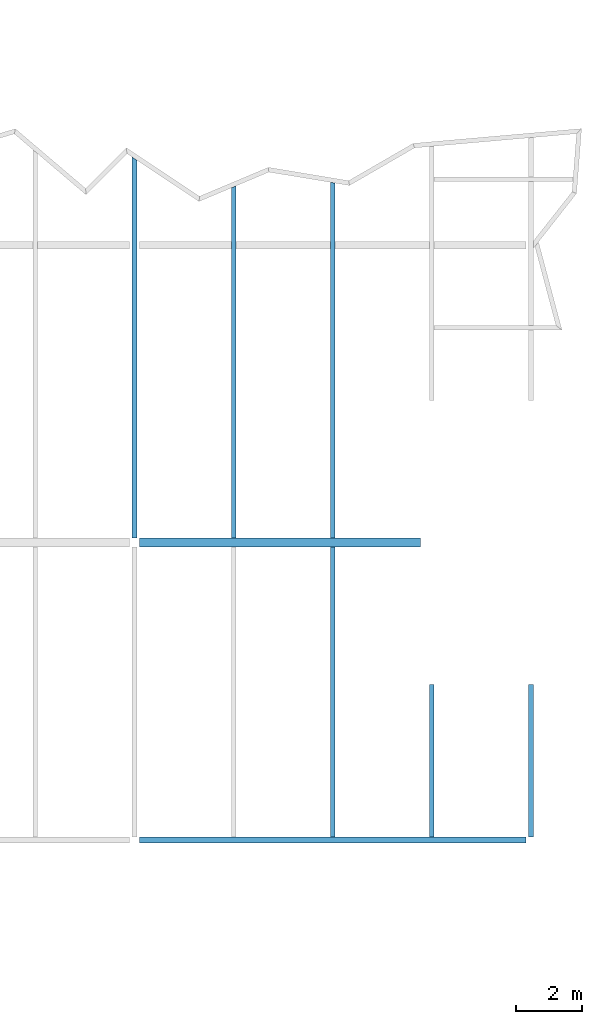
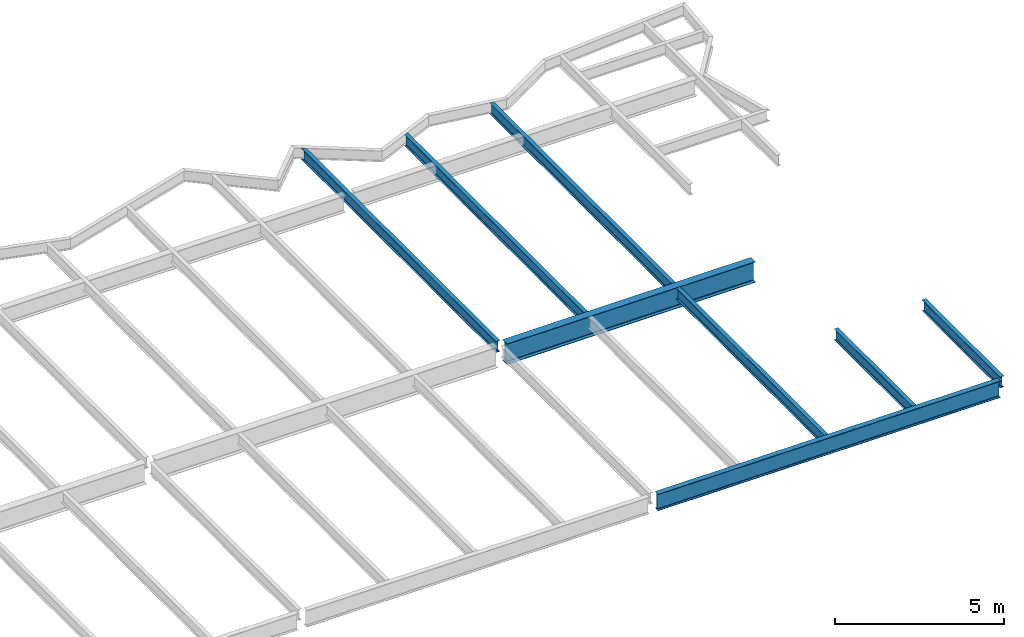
# One storey, part 18 of 21: 8 beams.
"""IFC2X3 building model written with IfcOpenShell, lengths in millimetres."""

import ifcopenshell
import ifcopenshell.guid

model = None  # the IFC model being written
_history = None  # IfcOwnerHistory: only IFC2X3 demands one
_inside = {}  # id of a spatial element -> (the spatial element, [elements in it])
_under = {}  # id of a project, library or spatial element -> (it, [spatial elements below it])
_declared = {}  # id of a project -> (the project, [libraries it declares])
_typed = {}  # id of a type object -> (the type object, [elements of that type])
_made_of = {}  # id of a material, layer set ... -> (it, [elements and type objects made of it])


def new_model(schema):
    """Start an empty IFC model of exactly this schema.

    Asked for "IFC4X3", IfcOpenShell would pick the latest addendum, in which some entities
    have other attributes; the version numbers below select the first issue.
    IFC2X3 requires an IfcOwnerHistory on every rooted entity: one is made here for all.
    """
    global model, _history
    if schema == "IFC4X3":
        model = ifcopenshell.file(schema_version=(4, 3, 0, 0))
    else:
        model = ifcopenshell.file(schema=schema)
    _inside.clear()
    _under.clear()
    _declared.clear()
    _typed.clear()
    _made_of.clear()
    _history = None
    if model.schema == "IFC2X3":
        org = make("IfcOrganization", Name="unknown")
        user = make(
            "IfcPersonAndOrganization",
            ThePerson=make("IfcPerson", FamilyName="unknown"),
            TheOrganization=org,
        )
        app = make(
            "IfcApplication",
            ApplicationDeveloper=org,
            Version="unknown",
            ApplicationFullName="unknown",
            ApplicationIdentifier="unknown",
        )
        _history = make(
            "IfcOwnerHistory",
            OwningUser=user,
            OwningApplication=app,
            ChangeAction="ADDED",
            CreationDate=0,
        )
    return model


def make(cls, **values):
    """One entity of the class cls with the attributes given. An attribute that is None is left unset."""
    return model.create_entity(
        cls, **{name: value for name, value in values.items() if value is not None}
    )


def rooted(cls, **values):
    """An entity with a GlobalId (a new one), such as an element, a storey or a relation."""
    return make(cls, GlobalId=ifcopenshell.guid.new(), OwnerHistory=_history, **values)


def si_unit(unit_type, name, prefix=None):
    """IfcSIUnit, for example si_unit("LENGTHUNIT", "METRE", prefix="MILLI")."""
    return make("IfcSIUnit", UnitType=unit_type, Prefix=prefix, Name=name)


def assignment(units):
    """IfcUnitAssignment: the units of a project."""
    return None if units is None else make("IfcUnitAssignment", Units=units)


def point(xyz):
    """IfcCartesianPoint."""
    return None if xyz is None else make("IfcCartesianPoint", Coordinates=xyz)


def direction(xyz):
    """IfcDirection."""
    return None if xyz is None else make("IfcDirection", DirectionRatios=xyz)


def frame(location, z_axis=None, x_axis=None):
    """IfcAxis2Placement3D, a coordinate frame: its origin and axes. An axis left out is left unset."""
    return make(
        "IfcAxis2Placement3D",
        Location=point(location),
        Axis=direction(z_axis),
        RefDirection=direction(x_axis),
    )


def origin():
    """The frame at (0, 0, 0) with its axes left unset."""
    return frame((0.0, 0.0, 0.0))


def place(relative_to, where):
    """IfcLocalPlacement: puts the frame where relative to a parent placement (None: the world)."""
    return make(
        "IfcLocalPlacement", PlacementRelTo=relative_to, RelativePlacement=where
    )


def context(
    kind, dimensions, precision=None, world=None, true_north=None, identifier=None
):
    """IfcGeometricRepresentationContext, for example the 3D "Model" context."""
    return make(
        "IfcGeometricRepresentationContext",
        ContextIdentifier=identifier,
        ContextType=kind,
        CoordinateSpaceDimension=dimensions,
        Precision=precision,
        WorldCoordinateSystem=world,
        TrueNorth=true_north,
    )


def project(units=None, contexts=None):
    """IfcProject with its units and contexts."""
    return rooted(
        "IfcProject",
        Name="project",
        RepresentationContexts=contexts,
        UnitsInContext=assignment(units),
    )


def spatial(cls, under=None, at=None, **own):
    """A site, building, storey or space (cls), placed at a placement, below another one or the project."""
    s = rooted(cls, ObjectPlacement=at, **own)
    if under is not None:
        _under.setdefault(under.id(), (under, []))[1].append(s)
    return s


def faces_of(points, faces, orient=None, outer=None):
    """IfcFace entities. A face is a list of loops; a loop is a list of indices into points, from 0.

    orient and outer hold one flag for each loop. By default every Orientation is true, the
    first loop of a face is its IfcFaceOuterBound and the others are IfcFaceBound.
    """
    made = []
    for i, loops in enumerate(faces):
        bounds = []
        for j, loop in enumerate(loops):
            is_outer = j == 0 if outer is None else outer[i][j]
            bounds.append(
                make(
                    "IfcFaceOuterBound" if is_outer else "IfcFaceBound",
                    Bound=make("IfcPolyLoop", Polygon=[points[k] for k in loop]),
                    Orientation=True if orient is None else orient[i][j],
                )
            )
        made.append(make("IfcFace", Bounds=bounds))
    return made


def faceted_brep(points, faces, orient=None, outer=None, voids=None):
    """IfcFacetedBrep: a solid bounded by flat faces; with voids (closed shells), ...WithVoids."""
    shared = [point(p) for p in points]
    hull = make("IfcClosedShell", CfsFaces=faces_of(shared, faces, orient, outer))
    if voids is None:
        return make("IfcFacetedBrep", Outer=hull)
    return make(
        "IfcFacetedBrepWithVoids",
        Outer=hull,
        Voids=[
            make(cls, CfsFaces=faces_of(shared, fs, o, b)) for cls, fs, o, b in voids
        ],
    )


def shape(context_of_items, identifier, shape_type, items):
    """IfcShapeRepresentation: the items that make up one representation, for example the "Body"."""
    return make(
        "IfcShapeRepresentation",
        ContextOfItems=context_of_items,
        RepresentationIdentifier=identifier,
        RepresentationType=shape_type,
        Items=items,
    )


def material(Name=None, Category=None):
    """IfcMaterial."""
    return make("IfcMaterial", Name=Name, Category=Category)


def made_of(thing, what):
    """Note that an element or type object is made of a material, layer set ...; save() writes the relation."""
    if what is not None:
        _made_of.setdefault(what.id(), (what, []))[1].append(thing)
    return thing


def element(
    cls,
    number,
    at=None,
    inside=None,
    cuts=None,
    type_object=None,
    material=None,
    context=None,
    identifier="Body",
    shape_type=None,
    held_by="IfcProductDefinitionShape",
    body=None,
    shapes=None,
    **own,
):
    """One element of the class cls, such as IfcWall. Its Tag is "e" and its number.

    at: its placement. inside: the storey or other place that contains it. cuts: it is an
    opening in that element (IfcRelVoidsElement). A single representation is given by context,
    identifier, shape_type and body (its items); several are given by shapes. held_by: the class
    of the entity that holds the representations. save() writes the other relations.
    """
    e = rooted(cls, Tag="e%d" % number, ObjectPlacement=at, **own)
    if body is not None:
        shapes = [shape(context, identifier, shape_type, body)]
    if shapes is not None:
        e.Representation = make(held_by, Representations=shapes)
    if inside is not None:
        _inside.setdefault(inside.id(), (inside, []))[1].append(e)
    if cuts is not None:
        rooted(
            "IfcRelVoidsElement", RelatingBuildingElement=cuts, RelatedOpeningElement=e
        )
    if type_object is not None:
        _typed.setdefault(type_object.id(), (type_object, []))[1].append(e)
    return made_of(e, material)


def aggregate(whole, parts):
    """IfcRelAggregates: a whole, such as a stair, and the parts it consists of."""
    return rooted("IfcRelAggregates", RelatingObject=whole, RelatedObjects=parts)


def save(model, path):
    """Write the relations noted so far, then the file.

    IfcRelAggregates (storeys below a building ...), IfcRelContainedInSpatialStructure (elements
    in a storey), IfcRelDefinesByType, IfcRelAssociatesMaterial and IfcRelDeclares: one each for
    every whole, place, type object, material and project.
    """
    for whole, parts in _under.values():
        aggregate(whole, parts)
    for where, things in _inside.values():
        rooted(
            "IfcRelContainedInSpatialStructure",
            RelatedElements=things,
            RelatingStructure=where,
        )
    for kind, things in _typed.values():
        rooted("IfcRelDefinesByType", RelatedObjects=things, RelatingType=kind)
    for what, things in _made_of.values():
        rooted("IfcRelAssociatesMaterial", RelatedObjects=things, RelatingMaterial=what)
    for by, libraries in _declared.values():
        rooted("IfcRelDeclares", RelatingContext=by, RelatedDefinitions=libraries)
    model.write(path)


model = new_model("IFC2X3")

# Units and contexts
context_of_model = context(None, 3, precision=1e-05, world=origin())
ifc_project = project(units=[si_unit("LENGTHUNIT", "METRE", prefix="MILLI")], contexts=[context_of_model])

# Building, storey
building = spatial("IfcBuilding", under=ifc_project, Name="Building", CompositionType="ELEMENT")
storey = spatial("IfcBuildingStorey", under=building, Name="FL6-FRM", CompositionType="ELEMENT")

# Beams
ifc_material_1 = material(Name="A992")
beam_1_placement = place(None, origin())
element("IfcBeam", 1, at=beam_1_placement, inside=storey, material=ifc_material_1, Name="B899", context=context_of_model, shape_type="Brep", body=[
    faceted_brep([(78070.0, 9089.5, 21970.0), (77930.0, 9089.5, 21970.0), (77930.0, 17867.5, 21970.0), (78070.0, 17867.5, 21970.0), (77930.0, 9089.5, 21981.2), (77930.0, 17867.5, 21981.2), (77986.3, 9089.5, 21981.2), (77986.3, 17867.5, 21981.2), (77988.9, 9089.5, 21981.5), (77988.9, 17867.5, 21981.5), (77991.4, 9089.5, 21982.6), (77991.4, 17867.5, 21982.6), (77993.5, 9089.5, 21984.2), (77993.5, 17867.5, 21984.2), (77995.1, 9089.5, 21986.3), (77995.1, 17867.5, 21986.3), (77996.2, 9089.5, 21988.8), (77996.2, 17867.5, 21988.8), (77996.5, 9089.5, 21991.4), (77996.5, 17867.5, 21991.4), (77996.5, 9089.5, 22351.6), (77996.5, 17867.5, 22351.6), (77996.2, 9089.5, 22354.2), (77996.2, 17867.5, 22354.2), (77995.1, 9089.5, 22356.7), (77995.1, 17867.5, 22356.7), (77993.5, 9089.5, 22358.8), (77993.5, 17867.5, 22358.8), (77991.4, 9089.5, 22360.4), (77991.4, 17867.5, 22360.4), (77988.9, 9089.5, 22361.5), (77988.9, 17867.5, 22361.5), (77986.3, 9089.5, 22361.8), (77986.3, 17867.5, 22361.8), (77930.0, 9089.5, 22361.8), (77930.0, 17867.5, 22361.8), (77930.0, 9089.5, 22373.0), (77930.0, 17867.5, 22373.0), (78070.0, 9089.5, 22373.0), (78070.0, 17867.5, 22373.0), (78070.0, 9089.5, 22361.8), (78070.0, 17867.5, 22361.8), (78013.7, 9089.5, 22361.8), (78013.7, 17867.5, 22361.8), (78011.1, 9089.5, 22361.5), (78011.1, 17867.5, 22361.5), (78008.6, 9089.5, 22360.4), (78008.6, 17867.5, 22360.4), (78006.5, 9089.5, 22358.8), (78006.5, 17867.5, 22358.8), (78004.9, 9089.5, 22356.7), (78004.9, 17867.5, 22356.7), (78003.8, 9089.5, 22354.2), (78003.8, 17867.5, 22354.2), (78003.5, 9089.5, 22351.6), (78003.5, 17867.5, 22351.6), (78003.5, 9089.5, 21991.4), (78003.5, 17867.5, 21991.4), (78003.8, 9089.5, 21988.8), (78003.8, 17867.5, 21988.8), (78004.9, 9089.5, 21986.3), (78004.9, 17867.5, 21986.3), (78006.5, 9089.5, 21984.2), (78006.5, 17867.5, 21984.2), (78008.6, 9089.5, 21982.6), (78008.6, 17867.5, 21982.6), (78011.1, 9089.5, 21981.5), (78011.1, 17867.5, 21981.5), (78013.7, 9089.5, 21981.2), (78013.7, 17867.5, 21981.2), (78070.0, 9089.5, 21981.2), (78070.0, 17867.5, 21981.2)], [[[0, 1, 2, 3]], [[1, 4, 5, 2]], [[4, 6, 7, 5]], [[6, 8, 9, 7]], [[8, 10, 11, 9]], [[10, 12, 13, 11]], [[12, 14, 15, 13]], [[14, 16, 17, 15]], [[16, 18, 19, 17]], [[18, 20, 21, 19]], [[20, 22, 23, 21]], [[22, 24, 25, 23]], [[24, 26, 27, 25]], [[26, 28, 29, 27]], [[28, 30, 31, 29]], [[30, 32, 33, 31]], [[32, 34, 35, 33]], [[34, 36, 37, 35]], [[36, 38, 39, 37]], [[38, 40, 41, 39]], [[40, 42, 43, 41]], [[42, 44, 45, 43]], [[44, 46, 47, 45]], [[46, 48, 49, 47]], [[48, 50, 51, 49]], [[50, 52, 53, 51]], [[52, 54, 55, 53]], [[54, 56, 57, 55]], [[56, 58, 59, 57]], [[58, 60, 61, 59]], [[60, 62, 63, 61]], [[62, 64, 65, 63]], [[64, 66, 67, 65]], [[66, 68, 69, 67]], [[68, 70, 71, 69]], [[70, 0, 3, 71]], [[0, 70, 68, 66, 64, 62, 60, 58, 56, 54, 52, 50, 48, 46, 44, 42, 40, 38, 36, 34, 32, 30, 28, 26, 24, 22, 20, 18, 16, 14, 12, 10, 8, 6, 4, 1]], [[3, 2, 5, 7, 9, 11, 13, 15, 17, 19, 21, 23, 25, 27, 29, 31, 33, 35, 37, 39, 41, 43, 45, 47, 49, 51, 53, 55, 57, 59, 61, 63, 65, 67, 69, 71]]]),
])
ifc_material_2 = material(Name="A992")
beam_2_placement = place(None, origin())
element("IfcBeam", 2, at=beam_2_placement, inside=storey, material=ifc_material_2, Name="B900", context=context_of_model, shape_type="Brep", body=[
    faceted_brep([(81070.0, 9089.5, 21970.0), (80930.0, 9089.5, 21970.0), (80930.0, 13700.0, 21970.0), (81070.0, 13700.0, 21970.0), (80930.0, 9089.5, 21981.2), (80930.0, 13700.0, 21981.2), (80986.3, 9089.5, 21981.2), (80986.3, 13700.0, 21981.2), (80988.9, 9089.5, 21981.5), (80988.9, 13700.0, 21981.5), (80991.4, 9089.5, 21982.6), (80991.4, 13700.0, 21982.6), (80993.5, 9089.5, 21984.2), (80993.5, 13700.0, 21984.2), (80995.1, 9089.5, 21986.3), (80995.1, 13700.0, 21986.3), (80996.2, 9089.5, 21988.8), (80996.2, 13700.0, 21988.8), (80996.5, 9089.5, 21991.4), (80996.5, 13700.0, 21991.4), (80996.5, 9089.5, 22351.6), (80996.5, 13700.0, 22351.6), (80996.2, 9089.5, 22354.2), (80996.2, 13700.0, 22354.2), (80995.1, 9089.5, 22356.7), (80995.1, 13700.0, 22356.7), (80993.5, 9089.5, 22358.8), (80993.5, 13700.0, 22358.8), (80991.4, 9089.5, 22360.4), (80991.4, 13700.0, 22360.4), (80988.9, 9089.5, 22361.5), (80988.9, 13700.0, 22361.5), (80986.3, 9089.5, 22361.8), (80986.3, 13700.0, 22361.8), (80930.0, 9089.5, 22361.8), (80930.0, 13700.0, 22361.8), (80930.0, 9089.5, 22373.0), (80930.0, 13700.0, 22373.0), (81070.0, 9089.5, 22373.0), (81070.0, 13700.0, 22373.0), (81070.0, 9089.5, 22361.8), (81070.0, 13700.0, 22361.8), (81013.7, 9089.5, 22361.8), (81013.7, 13700.0, 22361.8), (81011.1, 9089.5, 22361.5), (81011.1, 13700.0, 22361.5), (81008.6, 9089.5, 22360.4), (81008.6, 13700.0, 22360.4), (81006.5, 9089.5, 22358.8), (81006.5, 13700.0, 22358.8), (81004.9, 9089.5, 22356.7), (81004.9, 13700.0, 22356.7), (81003.8, 9089.5, 22354.2), (81003.8, 13700.0, 22354.2), (81003.5, 9089.5, 22351.6), (81003.5, 13700.0, 22351.6), (81003.5, 9089.5, 21991.4), (81003.5, 13700.0, 21991.4), (81003.8, 9089.5, 21988.8), (81003.8, 13700.0, 21988.8), (81004.9, 9089.5, 21986.3), (81004.9, 13700.0, 21986.3), (81006.5, 9089.5, 21984.2), (81006.5, 13700.0, 21984.2), (81008.6, 9089.5, 21982.6), (81008.6, 13700.0, 21982.6), (81011.1, 9089.5, 21981.5), (81011.1, 13700.0, 21981.5), (81013.7, 9089.5, 21981.2), (81013.7, 13700.0, 21981.2), (81070.0, 9089.5, 21981.2), (81070.0, 13700.0, 21981.2)], [[[0, 1, 2, 3]], [[1, 4, 5, 2]], [[4, 6, 7, 5]], [[6, 8, 9, 7]], [[8, 10, 11, 9]], [[10, 12, 13, 11]], [[12, 14, 15, 13]], [[14, 16, 17, 15]], [[16, 18, 19, 17]], [[18, 20, 21, 19]], [[20, 22, 23, 21]], [[22, 24, 25, 23]], [[24, 26, 27, 25]], [[26, 28, 29, 27]], [[28, 30, 31, 29]], [[30, 32, 33, 31]], [[32, 34, 35, 33]], [[34, 36, 37, 35]], [[36, 38, 39, 37]], [[38, 40, 41, 39]], [[40, 42, 43, 41]], [[42, 44, 45, 43]], [[44, 46, 47, 45]], [[46, 48, 49, 47]], [[48, 50, 51, 49]], [[50, 52, 53, 51]], [[52, 54, 55, 53]], [[54, 56, 57, 55]], [[56, 58, 59, 57]], [[58, 60, 61, 59]], [[60, 62, 63, 61]], [[62, 64, 65, 63]], [[64, 66, 67, 65]], [[66, 68, 69, 67]], [[68, 70, 71, 69]], [[70, 0, 3, 71]], [[0, 70, 68, 66, 64, 62, 60, 58, 56, 54, 52, 50, 48, 46, 44, 42, 40, 38, 36, 34, 32, 30, 28, 26, 24, 22, 20, 18, 16, 14, 12, 10, 8, 6, 4, 1]], [[3, 2, 5, 7, 9, 11, 13, 15, 17, 19, 21, 23, 25, 27, 29, 31, 33, 35, 37, 39, 41, 43, 45, 47, 49, 51, 53, 55, 57, 59, 61, 63, 65, 67, 69, 71]]]),
])
ifc_material_3 = material(Name="A992")
beam_3_placement = place(None, origin())
element("IfcBeam", 3, at=beam_3_placement, inside=storey, material=ifc_material_3, Name="Column615", context=context_of_model, shape_type="Brep", body=[
    faceted_brep([(72157.0, 17867.5, 21620.0), (72157.0, 18132.5, 21620.0), (80650.0, 18132.5, 21620.0), (80650.0, 17867.5, 21620.0), (72157.0, 18132.5, 21637.0), (80650.0, 18132.5, 21637.0), (72157.0, 18023.1, 21637.0), (80650.0, 18023.1, 21637.0), (72157.0, 18018.8, 21637.6), (80650.0, 18018.8, 21637.6), (72157.0, 18014.8, 21639.2), (80650.0, 18014.8, 21639.2), (72157.0, 18011.4, 21641.8), (80650.0, 18011.4, 21641.8), (72157.0, 18008.8, 21645.2), (80650.0, 18008.8, 21645.2), (72157.0, 18007.2, 21649.2), (80650.0, 18007.2, 21649.2), (72157.0, 18006.6, 21653.5), (80650.0, 18006.6, 21653.5), (72157.0, 18006.6, 22339.5), (80650.0, 18006.6, 22339.5), (72157.0, 18007.2, 22343.8), (80650.0, 18007.2, 22343.8), (72157.0, 18008.8, 22347.7), (80650.0, 18008.8, 22347.8), (72157.0, 18011.4, 22351.2), (80650.0, 18011.4, 22351.2), (72157.0, 18014.8, 22353.8), (80650.0, 18014.8, 22353.8), (72157.0, 18018.8, 22355.4), (80650.0, 18018.8, 22355.4), (72157.0, 18023.1, 22356.0), (80650.0, 18023.1, 22356.0), (72157.0, 18132.5, 22356.0), (80650.0, 18132.5, 22356.0), (72157.0, 18132.5, 22373.0), (80650.0, 18132.5, 22373.0), (72157.0, 17867.5, 22373.0), (80650.0, 17867.5, 22373.0), (72157.0, 17867.5, 22356.0), (80650.0, 17867.5, 22356.0), (72157.0, 17976.9, 22356.0), (80650.0, 17976.9, 22356.0), (72157.0, 17981.2, 22355.4), (80650.0, 17981.2, 22355.4), (72157.0, 17985.2, 22353.8), (80650.0, 17985.2, 22353.8), (72157.0, 17988.6, 22351.2), (80650.0, 17988.6, 22351.2), (72157.0, 17991.2, 22347.7), (80650.0, 17991.2, 22347.8), (72157.0, 17992.8, 22343.8), (80650.0, 17992.8, 22343.8), (72157.0, 17993.4, 22339.5), (80650.0, 17993.4, 22339.5), (72157.0, 17993.4, 21653.5), (80650.0, 17993.4, 21653.5), (72157.0, 17992.8, 21649.2), (80650.0, 17992.8, 21649.2), (72157.0, 17991.2, 21645.2), (80650.0, 17991.2, 21645.3), (72157.0, 17988.6, 21641.8), (80650.0, 17988.6, 21641.8), (72157.0, 17985.2, 21639.2), (80650.0, 17985.2, 21639.2), (72157.0, 17981.2, 21637.6), (80650.0, 17981.2, 21637.6), (72157.0, 17976.9, 21637.0), (80650.0, 17976.9, 21637.0), (72157.0, 17867.5, 21637.0), (80650.0, 17867.5, 21637.0)], [[[0, 1, 2, 3]], [[1, 4, 5, 2]], [[4, 6, 7, 5]], [[6, 8, 9, 7]], [[8, 10, 11, 9]], [[10, 12, 13, 11]], [[12, 14, 15, 13]], [[14, 16, 17, 15]], [[16, 18, 19, 17]], [[18, 20, 21, 19]], [[20, 22, 23, 21]], [[22, 24, 25, 23]], [[24, 26, 27, 25]], [[26, 28, 29, 27]], [[28, 30, 31, 29]], [[30, 32, 33, 31]], [[32, 34, 35, 33]], [[34, 36, 37, 35]], [[36, 38, 39, 37]], [[38, 40, 41, 39]], [[40, 42, 43, 41]], [[42, 44, 45, 43]], [[44, 46, 47, 45]], [[46, 48, 49, 47]], [[48, 50, 51, 49]], [[50, 52, 53, 51]], [[52, 54, 55, 53]], [[54, 56, 57, 55]], [[56, 58, 59, 57]], [[58, 60, 61, 59]], [[60, 62, 63, 61]], [[62, 64, 65, 63]], [[64, 66, 67, 65]], [[66, 68, 69, 67]], [[68, 70, 71, 69]], [[70, 0, 3, 71]], [[0, 70, 68, 66, 64, 62, 60, 58, 56, 54, 52, 50, 48, 46, 44, 42, 40, 38, 36, 34, 32, 30, 28, 26, 24, 22, 20, 18, 16, 14, 12, 10, 8, 6, 4, 1]], [[3, 2, 5, 7, 9, 11, 13, 15, 17, 19, 21, 23, 25, 27, 29, 31, 33, 35, 37, 39, 41, 43, 45, 47, 49, 51, 53, 55, 57, 59, 61, 63, 65, 67, 69, 71]]]),
])
ifc_material_4 = material(Name="A992")
beam_4_placement = place(None, origin())
element("IfcBeam", 4, at=beam_4_placement, inside=storey, material=ifc_material_4, Name="Column617", context=context_of_model, shape_type="Brep", body=[
    faceted_brep([(72153.0, 8910.5, 21770.0), (72153.0, 9089.5, 21770.0), (83848.5, 9089.5, 21770.0), (83848.5, 8910.5, 21770.0), (72153.0, 9089.5, 21785.0), (83848.5, 9089.5, 21785.0), (72153.0, 9020.65, 21785.0), (83848.5, 9020.65, 21785.0), (72153.0, 9016.72, 21785.5), (83848.5, 9016.72, 21785.5), (72153.0, 9013.05, 21787.0), (83848.5, 9013.05, 21787.0), (72153.0, 9009.9, 21789.5), (83848.5, 9009.9, 21789.5), (72153.0, 9007.49, 21792.6), (83848.5, 9007.49, 21792.6), (72153.0, 9005.97, 21796.3), (83848.5, 9005.97, 21796.3), (72153.0, 9005.45, 21800.2), (83848.5, 9005.45, 21800.2), (72153.0, 9005.45, 22342.8), (83848.5, 9005.45, 22342.8), (72153.0, 9005.97, 22346.7), (83848.5, 9005.97, 22346.7), (72153.0, 9007.49, 22350.4), (83848.5, 9007.49, 22350.4), (72153.0, 9009.9, 22353.5), (83848.5, 9009.9, 22353.5), (72153.0, 9013.05, 22356.0), (83848.5, 9013.05, 22356.0), (72153.0, 9016.72, 22357.5), (83848.5, 9016.72, 22357.5), (72153.0, 9020.65, 22358.0), (83848.5, 9020.65, 22358.0), (72153.0, 9089.5, 22358.0), (83848.5, 9089.5, 22358.0), (72153.0, 9089.5, 22373.0), (83848.5, 9089.5, 22373.0), (72153.0, 8910.5, 22373.0), (83848.5, 8910.5, 22373.0), (72153.0, 8910.5, 22358.0), (83848.5, 8910.5, 22358.0), (72153.0, 8979.35, 22358.0), (83848.5, 8979.35, 22358.0), (72153.0, 8983.28, 22357.5), (83848.5, 8983.28, 22357.5), (72153.0, 8986.95, 22356.0), (83848.5, 8986.95, 22356.0), (72153.0, 8990.1, 22353.5), (83848.5, 8990.1, 22353.5), (72153.0, 8992.51, 22350.4), (83848.5, 8992.51, 22350.4), (72153.0, 8994.03, 22346.7), (83848.5, 8994.03, 22346.7), (72153.0, 8994.55, 22342.8), (83848.5, 8994.55, 22342.8), (72153.0, 8994.55, 21800.2), (83848.5, 8994.55, 21800.2), (72153.0, 8994.03, 21796.3), (83848.5, 8994.03, 21796.3), (72153.0, 8992.51, 21792.6), (83848.5, 8992.51, 21792.6), (72153.0, 8990.1, 21789.5), (83848.5, 8990.1, 21789.5), (72153.0, 8986.95, 21787.0), (83848.5, 8986.95, 21787.0), (72153.0, 8983.28, 21785.5), (83848.5, 8983.28, 21785.5), (72153.0, 8979.35, 21785.0), (83848.5, 8979.35, 21785.0), (72153.0, 8910.5, 21785.0), (83848.5, 8910.5, 21785.0)], [[[0, 1, 2, 3]], [[1, 4, 5, 2]], [[4, 6, 7, 5]], [[6, 8, 9, 7]], [[8, 10, 11, 9]], [[10, 12, 13, 11]], [[12, 14, 15, 13]], [[14, 16, 17, 15]], [[16, 18, 19, 17]], [[18, 20, 21, 19]], [[20, 22, 23, 21]], [[22, 24, 25, 23]], [[24, 26, 27, 25]], [[26, 28, 29, 27]], [[28, 30, 31, 29]], [[30, 32, 33, 31]], [[32, 34, 35, 33]], [[34, 36, 37, 35]], [[36, 38, 39, 37]], [[38, 40, 41, 39]], [[40, 42, 43, 41]], [[42, 44, 45, 43]], [[44, 46, 47, 45]], [[46, 48, 49, 47]], [[48, 50, 51, 49]], [[50, 52, 53, 51]], [[52, 54, 55, 53]], [[54, 56, 57, 55]], [[56, 58, 59, 57]], [[58, 60, 61, 59]], [[60, 62, 63, 61]], [[62, 64, 65, 63]], [[64, 66, 67, 65]], [[66, 68, 69, 67]], [[68, 70, 71, 69]], [[70, 0, 3, 71]], [[0, 70, 68, 66, 64, 62, 60, 58, 56, 54, 52, 50, 48, 46, 44, 42, 40, 38, 36, 34, 32, 30, 28, 26, 24, 22, 20, 18, 16, 14, 12, 10, 8, 6, 4, 1]], [[3, 2, 5, 7, 9, 11, 13, 15, 17, 19, 21, 23, 25, 27, 29, 31, 33, 35, 37, 39, 41, 43, 45, 47, 49, 51, 53, 55, 57, 59, 61, 63, 65, 67, 69, 71]]]),
])
ifc_material_5 = material(Name="A992")
beam_5_placement = place(None, origin())
element("IfcBeam", 5, at=beam_5_placement, inside=storey, material=ifc_material_5, Name="B908", context=context_of_model, shape_type="Brep", body=[
    faceted_brep([(84070.0, 9089.5, 21970.0), (83930.0, 9089.5, 21970.0), (83930.0, 13700.0, 21970.0), (84070.0, 13700.0, 21970.0), (83930.0, 9089.5, 21981.2), (83930.0, 13700.0, 21981.2), (83986.3, 9089.5, 21981.2), (83986.3, 13700.0, 21981.2), (83988.9, 9089.5, 21981.5), (83988.9, 13700.0, 21981.5), (83991.4, 9089.5, 21982.6), (83991.4, 13700.0, 21982.6), (83993.5, 9089.5, 21984.2), (83993.5, 13700.0, 21984.2), (83995.1, 9089.5, 21986.3), (83995.1, 13700.0, 21986.3), (83996.2, 9089.5, 21988.8), (83996.2, 13700.0, 21988.8), (83996.5, 9089.5, 21991.4), (83996.5, 13700.0, 21991.4), (83996.5, 9089.5, 22351.6), (83996.5, 13700.0, 22351.6), (83996.2, 9089.5, 22354.2), (83996.2, 13700.0, 22354.2), (83995.1, 9089.5, 22356.7), (83995.1, 13700.0, 22356.7), (83993.5, 9089.5, 22358.8), (83993.5, 13700.0, 22358.8), (83991.4, 9089.5, 22360.4), (83991.4, 13700.0, 22360.4), (83988.9, 9089.5, 22361.5), (83988.9, 13700.0, 22361.5), (83986.3, 9089.5, 22361.8), (83986.3, 13700.0, 22361.8), (83930.0, 9089.5, 22361.8), (83930.0, 13700.0, 22361.8), (83930.0, 9089.5, 22373.0), (83930.0, 13700.0, 22373.0), (84070.0, 9089.5, 22373.0), (84070.0, 13700.0, 22373.0), (84070.0, 9089.5, 22361.8), (84070.0, 13700.0, 22361.8), (84013.7, 9089.5, 22361.8), (84013.7, 13700.0, 22361.8), (84011.1, 9089.5, 22361.5), (84011.1, 13700.0, 22361.5), (84008.6, 9089.5, 22360.4), (84008.6, 13700.0, 22360.4), (84006.5, 9089.5, 22358.8), (84006.5, 13700.0, 22358.8), (84004.9, 9089.5, 22356.7), (84004.9, 13700.0, 22356.7), (84003.8, 9089.5, 22354.2), (84003.8, 13700.0, 22354.2), (84003.5, 9089.5, 22351.6), (84003.5, 13700.0, 22351.6), (84003.5, 9089.5, 21991.4), (84003.5, 13700.0, 21991.4), (84003.8, 9089.5, 21988.8), (84003.8, 13700.0, 21988.8), (84004.9, 9089.5, 21986.3), (84004.9, 13700.0, 21986.3), (84006.5, 9089.5, 21984.2), (84006.5, 13700.0, 21984.2), (84008.6, 9089.5, 21982.6), (84008.6, 13700.0, 21982.6), (84011.1, 9089.5, 21981.5), (84011.1, 13700.0, 21981.5), (84013.7, 9089.5, 21981.2), (84013.7, 13700.0, 21981.2), (84070.0, 9089.5, 21981.2), (84070.0, 13700.0, 21981.2)], [[[0, 1, 2, 3]], [[1, 4, 5, 2]], [[4, 6, 7, 5]], [[6, 8, 9, 7]], [[8, 10, 11, 9]], [[10, 12, 13, 11]], [[12, 14, 15, 13]], [[14, 16, 17, 15]], [[16, 18, 19, 17]], [[18, 20, 21, 19]], [[20, 22, 23, 21]], [[22, 24, 25, 23]], [[24, 26, 27, 25]], [[26, 28, 29, 27]], [[28, 30, 31, 29]], [[30, 32, 33, 31]], [[32, 34, 35, 33]], [[34, 36, 37, 35]], [[36, 38, 39, 37]], [[38, 40, 41, 39]], [[40, 42, 43, 41]], [[42, 44, 45, 43]], [[44, 46, 47, 45]], [[46, 48, 49, 47]], [[48, 50, 51, 49]], [[50, 52, 53, 51]], [[52, 54, 55, 53]], [[54, 56, 57, 55]], [[56, 58, 59, 57]], [[58, 60, 61, 59]], [[60, 62, 63, 61]], [[62, 64, 65, 63]], [[64, 66, 67, 65]], [[66, 68, 69, 67]], [[68, 70, 71, 69]], [[70, 0, 3, 71]], [[0, 70, 68, 66, 64, 62, 60, 58, 56, 54, 52, 50, 48, 46, 44, 42, 40, 38, 36, 34, 32, 30, 28, 26, 24, 22, 20, 18, 16, 14, 12, 10, 8, 6, 4, 1]], [[3, 2, 5, 7, 9, 11, 13, 15, 17, 19, 21, 23, 25, 27, 29, 31, 33, 35, 37, 39, 41, 43, 45, 47, 49, 51, 53, 55, 57, 59, 61, 63, 65, 67, 69, 71]]]),
])
ifc_material_6 = material(Name="A992")
beam_6_placement = place(None, origin())
element("IfcBeam", 6, at=beam_6_placement, inside=storey, material=ifc_material_6, Name="B925", context=context_of_model, shape_type="Brep", body=[
    faceted_brep([(71930.0, 29663.5, 21970.0), (72070.0, 29570.7, 21970.0), (72070.0, 18132.5, 21970.0), (71930.0, 18132.5, 21970.0), (72070.0, 29570.7, 21981.2), (72070.0, 18132.5, 21981.2), (72013.7, 29608.0, 21981.2), (72013.7, 18132.5, 21981.2), (72012.3, 29609.0, 21981.3), (72012.2, 18132.5, 21981.3), (72010.8, 29609.9, 21981.6), (72010.8, 18132.5, 21981.6), (72009.5, 29610.8, 21982.1), (72009.5, 18132.5, 21982.1), (72008.2, 29611.6, 21982.8), (72008.2, 18132.5, 21982.8), (72007.0, 29612.4, 21983.7), (72007.0, 18132.5, 21983.7), (72006.0, 29613.1, 21984.7), (72006.0, 18132.5, 21984.7), (72005.1, 29613.7, 21985.9), (72005.1, 18132.5, 21985.9), (72004.4, 29614.1, 21987.2), (72004.4, 18132.5, 21987.2), (72003.9, 29614.5, 21988.5), (72003.9, 18132.5, 21988.5), (72003.6, 29614.7, 21989.9), (72003.6, 18132.5, 21989.9), (72003.5, 29614.8, 21991.4), (72003.5, 18132.5, 21991.4), (72003.5, 29614.8, 22351.6), (72003.5, 18132.5, 22351.6), (72003.6, 29614.7, 22353.1), (72003.6, 18132.5, 22353.1), (72003.9, 29614.5, 22354.5), (72003.9, 18132.5, 22354.5), (72004.4, 29614.1, 22355.8), (72004.4, 18132.5, 22355.8), (72005.1, 29613.7, 22357.1), (72005.1, 18132.5, 22357.1), (72006.0, 29613.1, 22358.3), (72006.0, 18132.5, 22358.3), (72007.0, 29612.4, 22359.3), (72007.0, 18132.5, 22359.3), (72008.2, 29611.6, 22360.2), (72008.2, 18132.5, 22360.2), (72009.5, 29610.8, 22360.9), (72009.5, 18132.5, 22360.9), (72010.8, 29609.9, 22361.4), (72010.8, 18132.5, 22361.4), (72012.3, 29609.0, 22361.7), (72012.2, 18132.5, 22361.7), (72013.7, 29608.0, 22361.8), (72013.7, 18132.5, 22361.8), (72070.0, 29570.7, 22361.8), (72070.0, 18132.5, 22361.8), (72070.0, 29570.7, 22373.0), (72070.0, 18132.5, 22373.0), (71930.0, 29663.5, 22373.0), (71930.0, 18132.5, 22373.0), (71930.0, 29663.5, 22361.8), (71930.0, 18132.5, 22361.8), (71986.3, 29626.2, 22361.8), (71986.3, 18132.5, 22361.8), (71987.7, 29625.2, 22361.7), (71987.8, 18132.5, 22361.7), (71989.2, 29624.3, 22361.4), (71989.2, 18132.5, 22361.4), (71990.5, 29623.4, 22360.9), (71990.5, 18132.5, 22360.9), (71991.8, 29622.5, 22360.2), (71991.8, 18132.5, 22360.2), (71993.0, 29621.7, 22359.3), (71993.0, 18132.5, 22359.3), (71994.0, 29621.1, 22358.3), (71994.0, 18132.5, 22358.3), (71994.9, 29620.5, 22357.1), (71994.9, 18132.5, 22357.1), (71995.6, 29620.0, 22355.8), (71995.6, 18132.5, 22355.8), (71996.1, 29619.7, 22354.5), (71996.1, 18132.5, 22354.5), (71996.4, 29619.5, 22353.1), (71996.4, 18132.5, 22353.1), (71996.5, 29619.4, 22351.6), (71996.5, 18132.5, 22351.6), (71996.5, 29619.4, 21991.4), (71996.5, 18132.5, 21991.4), (71996.4, 29619.5, 21989.9), (71996.4, 18132.5, 21989.9), (71996.1, 29619.7, 21988.5), (71996.1, 18132.5, 21988.5), (71995.6, 29620.0, 21987.2), (71995.6, 18132.5, 21987.2), (71994.9, 29620.5, 21985.9), (71994.9, 18132.5, 21985.9), (71994.0, 29621.1, 21984.7), (71994.0, 18132.5, 21984.7), (71993.0, 29621.7, 21983.7), (71993.0, 18132.5, 21983.7), (71991.8, 29622.5, 21982.8), (71991.8, 18132.5, 21982.8), (71990.5, 29623.4, 21982.1), (71990.5, 18132.5, 21982.1), (71989.2, 29624.3, 21981.6), (71989.2, 18132.5, 21981.6), (71987.7, 29625.2, 21981.3), (71987.8, 18132.5, 21981.3), (71986.3, 29626.2, 21981.2), (71986.3, 18132.5, 21981.2), (71930.0, 29663.5, 21981.2), (71930.0, 18132.5, 21981.2)], [[[0, 1, 2, 3]], [[1, 4, 5, 2]], [[4, 6, 7, 5]], [[6, 8, 9, 7]], [[8, 10, 11, 9]], [[10, 12, 13, 11]], [[12, 14, 15, 13]], [[14, 16, 17, 15]], [[16, 18, 19, 17]], [[18, 20, 21, 19]], [[20, 22, 23, 21]], [[22, 24, 25, 23]], [[24, 26, 27, 25]], [[26, 28, 29, 27]], [[28, 30, 31, 29]], [[30, 32, 33, 31]], [[32, 34, 35, 33]], [[34, 36, 37, 35]], [[36, 38, 39, 37]], [[38, 40, 41, 39]], [[40, 42, 43, 41]], [[42, 44, 45, 43]], [[44, 46, 47, 45]], [[46, 48, 49, 47]], [[48, 50, 51, 49]], [[50, 52, 53, 51]], [[52, 54, 55, 53]], [[54, 56, 57, 55]], [[56, 58, 59, 57]], [[58, 60, 61, 59]], [[60, 62, 63, 61]], [[62, 64, 65, 63]], [[64, 66, 67, 65]], [[66, 68, 69, 67]], [[68, 70, 71, 69]], [[70, 72, 73, 71]], [[72, 74, 75, 73]], [[74, 76, 77, 75]], [[76, 78, 79, 77]], [[78, 80, 81, 79]], [[80, 82, 83, 81]], [[82, 84, 85, 83]], [[84, 86, 87, 85]], [[86, 88, 89, 87]], [[88, 90, 91, 89]], [[90, 92, 93, 91]], [[92, 94, 95, 93]], [[94, 96, 97, 95]], [[96, 98, 99, 97]], [[98, 100, 101, 99]], [[100, 102, 103, 101]], [[102, 104, 105, 103]], [[104, 106, 107, 105]], [[106, 108, 109, 107]], [[108, 110, 111, 109]], [[110, 0, 3, 111]], [[0, 110, 108, 106, 104, 102, 100, 98, 96, 94, 92, 90, 88, 86, 84, 82, 80, 78, 76, 74, 72, 70, 68, 66, 64, 62, 60, 58, 56, 54, 52, 50, 48, 46, 44, 42, 40, 38, 36, 34, 32, 30, 28, 26, 24, 22, 20, 18, 16, 14, 12, 10, 8, 6, 4, 1]], [[3, 2, 5, 7, 9, 11, 13, 15, 17, 19, 21, 23, 25, 27, 29, 31, 33, 35, 37, 39, 41, 43, 45, 47, 49, 51, 53, 55, 57, 59, 61, 63, 65, 67, 69, 71, 73, 75, 77, 79, 81, 83, 85, 87, 89, 91, 93, 95, 97, 99, 101, 103, 105, 107, 109, 111]]]),
])
ifc_material_7 = material(Name="A992")
beam_7_placement = place(None, origin())
element("IfcBeam", 7, at=beam_7_placement, inside=storey, material=ifc_material_7, Name="B927", context=context_of_model, shape_type="Brep", body=[
    faceted_brep([(77930.0, 28900.5, 21970.0), (78070.0, 28877.1, 21970.0), (78070.0, 18132.5, 21970.0), (77930.0, 18132.5, 21970.0), (78070.0, 28877.1, 21981.2), (78070.0, 18132.5, 21981.2), (78013.7, 28886.5, 21981.2), (78013.7, 18132.5, 21981.2), (78012.2, 28886.8, 21981.3), (78012.2, 18132.5, 21981.3), (78010.8, 28887.0, 21981.6), (78010.8, 18132.5, 21981.6), (78009.5, 28887.2, 21982.1), (78009.5, 18132.5, 21982.1), (78008.2, 28887.4, 21982.8), (78008.2, 18132.5, 21982.8), (78007.0, 28887.6, 21983.7), (78007.0, 18132.5, 21983.7), (78006.0, 28887.8, 21984.7), (78006.0, 18132.5, 21984.7), (78005.1, 28888.0, 21985.9), (78005.1, 18132.5, 21985.9), (78004.4, 28888.1, 21987.2), (78004.4, 18132.5, 21987.2), (78003.9, 28888.2, 21988.5), (78003.9, 18132.5, 21988.5), (78003.6, 28888.2, 21989.9), (78003.6, 18132.5, 21989.9), (78003.5, 28888.2, 21991.4), (78003.5, 18132.5, 21991.4), (78003.5, 28888.2, 22351.6), (78003.5, 18132.5, 22351.6), (78003.6, 28888.2, 22353.1), (78003.6, 18132.5, 22353.1), (78003.9, 28888.2, 22354.5), (78003.9, 18132.5, 22354.5), (78004.4, 28888.1, 22355.8), (78004.4, 18132.5, 22355.8), (78005.1, 28888.0, 22357.1), (78005.1, 18132.5, 22357.1), (78006.0, 28887.8, 22358.3), (78006.0, 18132.5, 22358.3), (78007.0, 28887.6, 22359.3), (78007.0, 18132.5, 22359.3), (78008.2, 28887.4, 22360.2), (78008.2, 18132.5, 22360.2), (78009.5, 28887.2, 22360.9), (78009.5, 18132.5, 22360.9), (78010.8, 28887.0, 22361.4), (78010.8, 18132.5, 22361.4), (78012.2, 28886.8, 22361.7), (78012.2, 18132.5, 22361.7), (78013.7, 28886.5, 22361.8), (78013.7, 18132.5, 22361.8), (78070.0, 28877.1, 22361.8), (78070.0, 18132.5, 22361.8), (78070.0, 28877.1, 22373.0), (78070.0, 18132.5, 22373.0), (77930.0, 28900.5, 22373.0), (77930.0, 18132.5, 22373.0), (77930.0, 28900.5, 22361.8), (77930.0, 18132.5, 22361.8), (77986.3, 28891.1, 22361.8), (77986.3, 18132.5, 22361.8), (77987.8, 28890.8, 22361.7), (77987.8, 18132.5, 22361.7), (77989.2, 28890.6, 22361.4), (77989.2, 18132.5, 22361.4), (77990.5, 28890.4, 22360.9), (77990.5, 18132.5, 22360.9), (77991.8, 28890.2, 22360.2), (77991.8, 18132.5, 22360.2), (77993.0, 28890.0, 22359.3), (77993.0, 18132.5, 22359.3), (77994.0, 28889.8, 22358.3), (77994.0, 18132.5, 22358.3), (77994.9, 28889.7, 22357.1), (77994.9, 18132.5, 22357.1), (77995.6, 28889.5, 22355.8), (77995.6, 18132.5, 22355.8), (77996.1, 28889.5, 22354.5), (77996.1, 18132.5, 22354.5), (77996.4, 28889.4, 22353.1), (77996.4, 18132.5, 22353.1), (77996.5, 28889.4, 22351.6), (77996.5, 18132.5, 22351.6), (77996.5, 28889.4, 21991.4), (77996.5, 18132.5, 21991.4), (77996.4, 28889.4, 21989.9), (77996.4, 18132.5, 21989.9), (77996.1, 28889.5, 21988.5), (77996.1, 18132.5, 21988.5), (77995.6, 28889.5, 21987.2), (77995.6, 18132.5, 21987.2), (77994.9, 28889.7, 21985.9), (77994.9, 18132.5, 21985.9), (77994.0, 28889.8, 21984.7), (77994.0, 18132.5, 21984.7), (77993.0, 28890.0, 21983.7), (77993.0, 18132.5, 21983.7), (77991.8, 28890.2, 21982.8), (77991.8, 18132.5, 21982.8), (77990.5, 28890.4, 21982.1), (77990.5, 18132.5, 21982.1), (77989.2, 28890.6, 21981.6), (77989.2, 18132.5, 21981.6), (77987.8, 28890.8, 21981.3), (77987.8, 18132.5, 21981.3), (77986.3, 28891.1, 21981.2), (77986.3, 18132.5, 21981.2), (77930.0, 28900.5, 21981.2), (77930.0, 18132.5, 21981.2)], [[[0, 1, 2, 3]], [[1, 4, 5, 2]], [[4, 6, 7, 5]], [[6, 8, 9, 7]], [[8, 10, 11, 9]], [[10, 12, 13, 11]], [[12, 14, 15, 13]], [[14, 16, 17, 15]], [[16, 18, 19, 17]], [[18, 20, 21, 19]], [[20, 22, 23, 21]], [[22, 24, 25, 23]], [[24, 26, 27, 25]], [[26, 28, 29, 27]], [[28, 30, 31, 29]], [[30, 32, 33, 31]], [[32, 34, 35, 33]], [[34, 36, 37, 35]], [[36, 38, 39, 37]], [[38, 40, 41, 39]], [[40, 42, 43, 41]], [[42, 44, 45, 43]], [[44, 46, 47, 45]], [[46, 48, 49, 47]], [[48, 50, 51, 49]], [[50, 52, 53, 51]], [[52, 54, 55, 53]], [[54, 56, 57, 55]], [[56, 58, 59, 57]], [[58, 60, 61, 59]], [[60, 62, 63, 61]], [[62, 64, 65, 63]], [[64, 66, 67, 65]], [[66, 68, 69, 67]], [[68, 70, 71, 69]], [[70, 72, 73, 71]], [[72, 74, 75, 73]], [[74, 76, 77, 75]], [[76, 78, 79, 77]], [[78, 80, 81, 79]], [[80, 82, 83, 81]], [[82, 84, 85, 83]], [[84, 86, 87, 85]], [[86, 88, 89, 87]], [[88, 90, 91, 89]], [[90, 92, 93, 91]], [[92, 94, 95, 93]], [[94, 96, 97, 95]], [[96, 98, 99, 97]], [[98, 100, 101, 99]], [[100, 102, 103, 101]], [[102, 104, 105, 103]], [[104, 106, 107, 105]], [[106, 108, 109, 107]], [[108, 110, 111, 109]], [[110, 0, 3, 111]], [[0, 110, 108, 106, 104, 102, 100, 98, 96, 94, 92, 90, 88, 86, 84, 82, 80, 78, 76, 74, 72, 70, 68, 66, 64, 62, 60, 58, 56, 54, 52, 50, 48, 46, 44, 42, 40, 38, 36, 34, 32, 30, 28, 26, 24, 22, 20, 18, 16, 14, 12, 10, 8, 6, 4, 1]], [[3, 2, 5, 7, 9, 11, 13, 15, 17, 19, 21, 23, 25, 27, 29, 31, 33, 35, 37, 39, 41, 43, 45, 47, 49, 51, 53, 55, 57, 59, 61, 63, 65, 67, 69, 71, 73, 75, 77, 79, 81, 83, 85, 87, 89, 91, 93, 95, 97, 99, 101, 103, 105, 107, 109, 111]]]),
])
ifc_material_8 = material(Name="A992")
beam_8_placement = place(None, origin())
element("IfcBeam", 8, at=beam_8_placement, inside=storey, material=ifc_material_8, Name="B929", context=context_of_model, shape_type="Brep", body=[
    faceted_brep([(74930.0, 28731.0, 21970.0), (75070.0, 28790.0, 21970.0), (75070.0, 18132.5, 21970.0), (74930.0, 18132.5, 21970.0), (75070.0, 28790.0, 21981.2), (75070.0, 18132.5, 21981.2), (75013.7, 28766.2, 21981.2), (75013.7, 18132.5, 21981.2), (75012.3, 28765.6, 21981.3), (75012.2, 18132.5, 21981.3), (75010.8, 28765.0, 21981.6), (75010.8, 18132.5, 21981.6), (75009.5, 28764.5, 21982.1), (75009.5, 18132.5, 21982.1), (75008.2, 28763.9, 21982.8), (75008.2, 18132.5, 21982.8), (75007.0, 28763.4, 21983.7), (75007.0, 18132.5, 21983.7), (75006.0, 28763.0, 21984.7), (75006.0, 18132.5, 21984.7), (75005.1, 28762.6, 21985.9), (75005.1, 18132.5, 21985.9), (75004.4, 28762.3, 21987.2), (75004.4, 18132.5, 21987.2), (75003.9, 28762.1, 21988.5), (75003.9, 18132.5, 21988.5), (75003.6, 28762.0, 21989.9), (75003.6, 18132.5, 21989.9), (75003.5, 28762.0, 21991.4), (75003.5, 18132.5, 21991.4), (75003.5, 28762.0, 22351.6), (75003.5, 18132.5, 22351.6), (75003.6, 28762.0, 22353.1), (75003.6, 18132.5, 22353.1), (75003.9, 28762.1, 22354.5), (75003.9, 18132.5, 22354.5), (75004.4, 28762.3, 22355.8), (75004.4, 18132.5, 22355.8), (75005.1, 28762.6, 22357.1), (75005.1, 18132.5, 22357.1), (75006.0, 28763.0, 22358.3), (75006.0, 18132.5, 22358.3), (75007.0, 28763.4, 22359.3), (75007.0, 18132.5, 22359.3), (75008.2, 28763.9, 22360.2), (75008.2, 18132.5, 22360.2), (75009.5, 28764.5, 22360.9), (75009.5, 18132.5, 22360.9), (75010.8, 28765.0, 22361.4), (75010.8, 18132.5, 22361.4), (75012.3, 28765.6, 22361.7), (75012.2, 18132.5, 22361.7), (75013.7, 28766.2, 22361.8), (75013.7, 18132.5, 22361.8), (75070.0, 28790.0, 22361.8), (75070.0, 18132.5, 22361.8), (75070.0, 28790.0, 22373.0), (75070.0, 18132.5, 22373.0), (74930.0, 28731.0, 22373.0), (74930.0, 18132.5, 22373.0), (74930.0, 28731.0, 22361.8), (74930.0, 18132.5, 22361.8), (74986.3, 28754.7, 22361.8), (74986.3, 18132.5, 22361.8), (74987.7, 28755.3, 22361.7), (74987.8, 18132.5, 22361.7), (74989.2, 28755.9, 22361.4), (74989.2, 18132.5, 22361.4), (74990.5, 28756.5, 22360.9), (74990.5, 18132.5, 22360.9), (74991.8, 28757.0, 22360.2), (74991.8, 18132.5, 22360.2), (74993.0, 28757.5, 22359.3), (74993.0, 18132.5, 22359.3), (74994.0, 28758.0, 22358.3), (74994.0, 18132.5, 22358.3), (74994.9, 28758.3, 22357.1), (74994.9, 18132.5, 22357.1), (74995.6, 28758.6, 22355.8), (74995.6, 18132.5, 22355.8), (74996.1, 28758.8, 22354.5), (74996.1, 18132.5, 22354.5), (74996.4, 28759.0, 22353.1), (74996.4, 18132.5, 22353.1), (74996.5, 28759.0, 22351.6), (74996.5, 18132.5, 22351.6), (74996.5, 28759.0, 21991.4), (74996.5, 18132.5, 21991.4), (74996.4, 28759.0, 21989.9), (74996.4, 18132.5, 21989.9), (74996.1, 28758.8, 21988.5), (74996.1, 18132.5, 21988.5), (74995.6, 28758.6, 21987.2), (74995.6, 18132.5, 21987.2), (74994.9, 28758.3, 21985.9), (74994.9, 18132.5, 21985.9), (74994.0, 28758.0, 21984.7), (74994.0, 18132.5, 21984.7), (74993.0, 28757.5, 21983.7), (74993.0, 18132.5, 21983.7), (74991.8, 28757.0, 21982.8), (74991.8, 18132.5, 21982.8), (74990.5, 28756.5, 21982.1), (74990.5, 18132.5, 21982.1), (74989.2, 28755.9, 21981.6), (74989.2, 18132.5, 21981.6), (74987.7, 28755.3, 21981.3), (74987.8, 18132.5, 21981.3), (74986.3, 28754.7, 21981.2), (74986.3, 18132.5, 21981.2), (74930.0, 28731.0, 21981.2), (74930.0, 18132.5, 21981.2)], [[[0, 1, 2, 3]], [[1, 4, 5, 2]], [[4, 6, 7, 5]], [[6, 8, 9, 7]], [[8, 10, 11, 9]], [[10, 12, 13, 11]], [[12, 14, 15, 13]], [[14, 16, 17, 15]], [[16, 18, 19, 17]], [[18, 20, 21, 19]], [[20, 22, 23, 21]], [[22, 24, 25, 23]], [[24, 26, 27, 25]], [[26, 28, 29, 27]], [[28, 30, 31, 29]], [[30, 32, 33, 31]], [[32, 34, 35, 33]], [[34, 36, 37, 35]], [[36, 38, 39, 37]], [[38, 40, 41, 39]], [[40, 42, 43, 41]], [[42, 44, 45, 43]], [[44, 46, 47, 45]], [[46, 48, 49, 47]], [[48, 50, 51, 49]], [[50, 52, 53, 51]], [[52, 54, 55, 53]], [[54, 56, 57, 55]], [[56, 58, 59, 57]], [[58, 60, 61, 59]], [[60, 62, 63, 61]], [[62, 64, 65, 63]], [[64, 66, 67, 65]], [[66, 68, 69, 67]], [[68, 70, 71, 69]], [[70, 72, 73, 71]], [[72, 74, 75, 73]], [[74, 76, 77, 75]], [[76, 78, 79, 77]], [[78, 80, 81, 79]], [[80, 82, 83, 81]], [[82, 84, 85, 83]], [[84, 86, 87, 85]], [[86, 88, 89, 87]], [[88, 90, 91, 89]], [[90, 92, 93, 91]], [[92, 94, 95, 93]], [[94, 96, 97, 95]], [[96, 98, 99, 97]], [[98, 100, 101, 99]], [[100, 102, 103, 101]], [[102, 104, 105, 103]], [[104, 106, 107, 105]], [[106, 108, 109, 107]], [[108, 110, 111, 109]], [[110, 0, 3, 111]], [[0, 110, 108, 106, 104, 102, 100, 98, 96, 94, 92, 90, 88, 86, 84, 82, 80, 78, 76, 74, 72, 70, 68, 66, 64, 62, 60, 58, 56, 54, 52, 50, 48, 46, 44, 42, 40, 38, 36, 34, 32, 30, 28, 26, 24, 22, 20, 18, 16, 14, 12, 10, 8, 6, 4, 1]], [[3, 2, 5, 7, 9, 11, 13, 15, 17, 19, 21, 23, 25, 27, 29, 31, 33, 35, 37, 39, 41, 43, 45, 47, 49, 51, 53, 55, 57, 59, 61, 63, 65, 67, 69, 71, 73, 75, 77, 79, 81, 83, 85, 87, 89, 91, 93, 95, 97, 99, 101, 103, 105, 107, 109, 111]]]),
])

save(model, "model.ifc")
